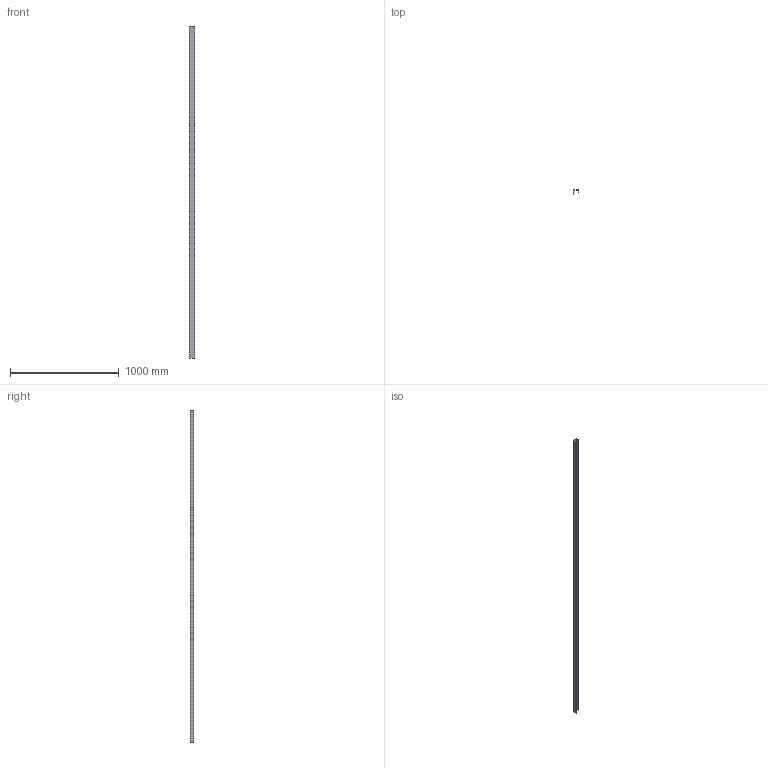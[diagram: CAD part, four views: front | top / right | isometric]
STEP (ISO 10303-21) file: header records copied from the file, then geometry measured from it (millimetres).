
FILE_DESCRIPTION(/* description */ (''),/* implementation_level */ '2;1');
FILE_NAME(/* name */ 'M13J (2-2).stp',/* time_stamp */ '2025-05-14T09:55:09-04:00',/* author */ ('gabrielle.gilbert'),/* organization */ (''),/* preprocessor_version */ 'ST-DEVELOPER v20',/* originating_system */ 'Autodesk Inventor 2025',/* authorisation */ '');
FILE_SCHEMA (('AUTOMOTIVE_DESIGN { 1 0 10303 214 3 1 1 }'));
Length unit declared in the file: inch
Products named in the file (1): M13I (2-2)
Bounding box: 46.1 x 36.22 x 3048 mm (x, y, z)
Volume: 141555.2 mm3; surface area: 625550.6 mm2
Topology: 1 solids, 1 shells, 14 faces, 36 edges, 24 vertices
Faces by surface type: plane 10, cylinder 4
Entity records: 473 total; most frequent: CARTESIAN_POINT 75, DIRECTION 74, ORIENTED_EDGE 72, EDGE_CURVE 36, LINE 28, VECTOR 28, VERTEX_POINT 24, AXIS2_PLACEMENT_3D 23
